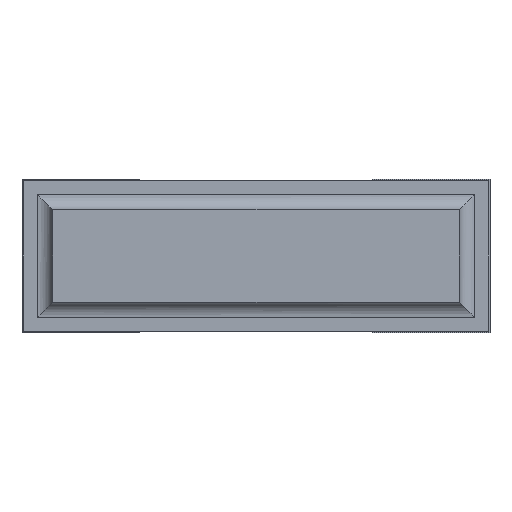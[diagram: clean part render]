
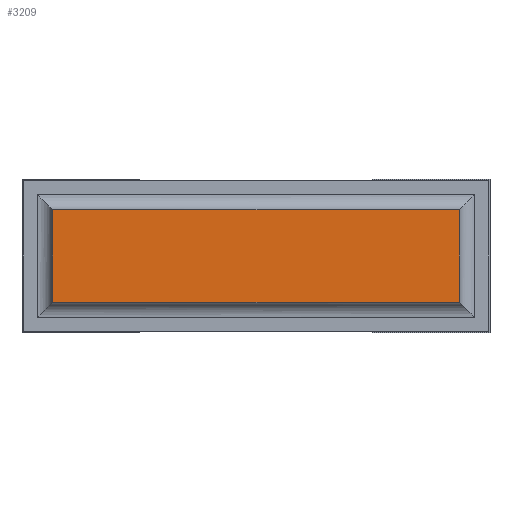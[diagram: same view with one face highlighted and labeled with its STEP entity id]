
A CAD part, front view. The second image highlights one B-rep face of the part: STEP entity #3209.
In plain terms, the highlighted planar face has unit normal (0, -1, 0).
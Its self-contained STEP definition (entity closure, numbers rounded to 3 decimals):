
#183=FACE_OUTER_BOUND('',#381,.T.);
#381=EDGE_LOOP('',(#2363,#2364,#2365,#2366));
#646=LINE('',#4758,#1058);
#652=LINE('',#4774,#1064);
#655=LINE('',#4783,#1067);
#657=LINE('',#4787,#1069);
#1058=VECTOR('',#3840,10.);
#1064=VECTOR('',#3854,10.);
#1067=VECTOR('',#3869,10.);
#1069=VECTOR('',#3875,10.);
#1435=VERTEX_POINT('',#4755);
#1436=VERTEX_POINT('',#4757);
#1440=VERTEX_POINT('',#4768);
#1442=VERTEX_POINT('',#4772);
#1762=EDGE_CURVE('',#1436,#1435,#646,.T.);
#1770=EDGE_CURVE('',#1440,#1442,#652,.T.);
#1775=EDGE_CURVE('',#1435,#1440,#655,.T.);
#1777=EDGE_CURVE('',#1442,#1436,#657,.T.);
#2363=ORIENTED_EDGE('',*,*,#1762,.T.);
#2364=ORIENTED_EDGE('',*,*,#1775,.T.);
#2365=ORIENTED_EDGE('',*,*,#1770,.T.);
#2366=ORIENTED_EDGE('',*,*,#1777,.T.);
#3045=PLANE('',#3443);
#3209=ADVANCED_FACE('',(#183),#3045,.T.);
#3443=AXIS2_PLACEMENT_3D('',#4790,#3879,#3880);
#3840=DIRECTION('',(0.,0.,-1.));
#3854=DIRECTION('',(0.,0.,1.));
#3869=DIRECTION('',(1.,0.,0.));
#3875=DIRECTION('',(-1.,0.,0.));
#3879=DIRECTION('center_axis',(0.,-1.,0.));
#3880=DIRECTION('ref_axis',(0.,0.,-1.));
#4755=CARTESIAN_POINT('',(0.1,0.,0.1));
#4757=CARTESIAN_POINT('',(0.1,0.,0.4));
#4758=CARTESIAN_POINT('',(0.1,0.,0.4));
#4768=CARTESIAN_POINT('',(1.42,0.,0.1));
#4772=CARTESIAN_POINT('',(1.42,0.,0.4));
#4774=CARTESIAN_POINT('',(1.42,0.,0.1));
#4783=CARTESIAN_POINT('',(0.1,0.,0.1));
#4787=CARTESIAN_POINT('',(1.42,0.,0.4));
#4790=CARTESIAN_POINT('Origin',(0.1,0.,0.25));
